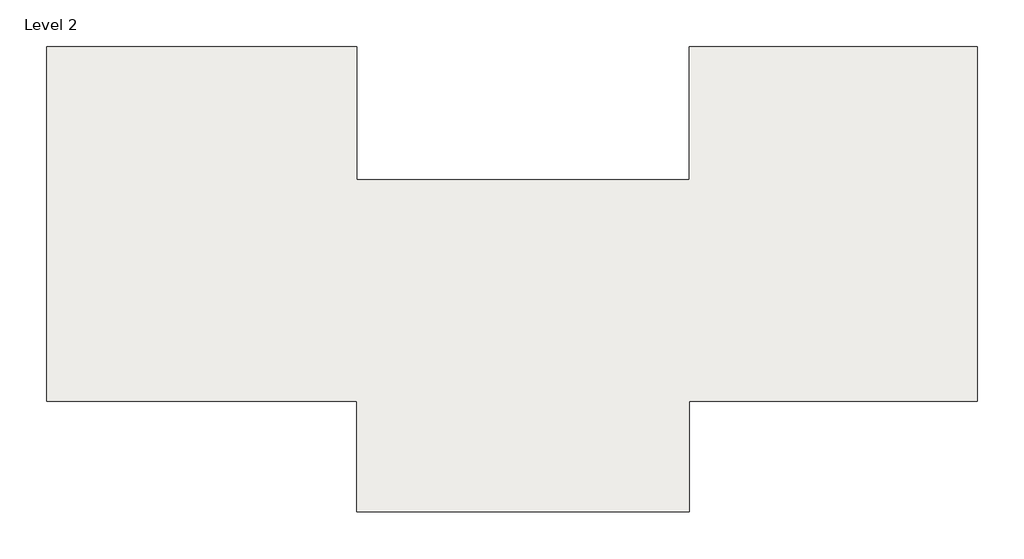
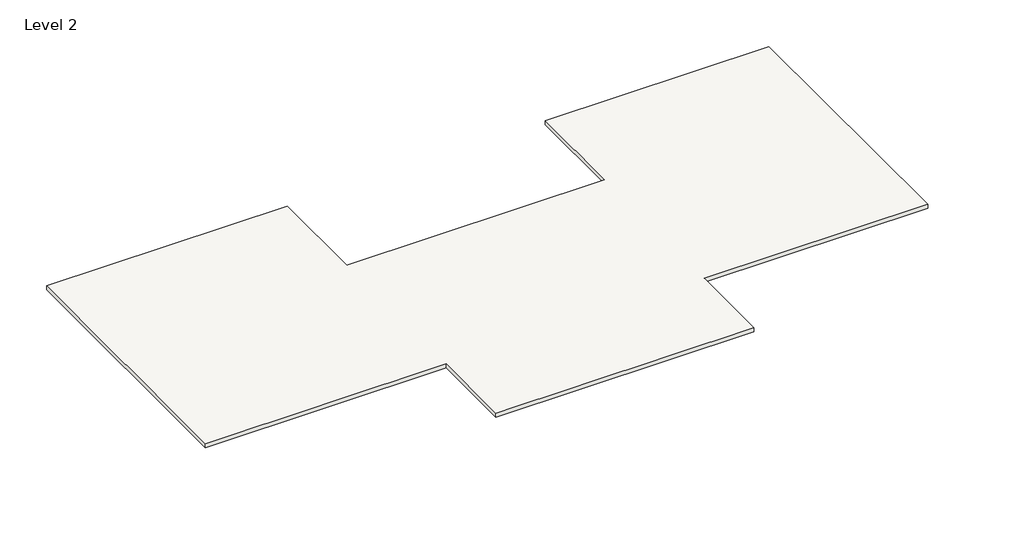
# One storey: 1 slab.
"""IFC4 building model written with IfcOpenShell, lengths in millimetres."""

import ifcopenshell
import ifcopenshell.guid

model = None  # the IFC model being written
_history = None  # IfcOwnerHistory: only IFC2X3 demands one
_inside = {}  # id of a spatial element -> (the spatial element, [elements in it])
_under = {}  # id of a project, library or spatial element -> (it, [spatial elements below it])
_declared = {}  # id of a project -> (the project, [libraries it declares])
_typed = {}  # id of a type object -> (the type object, [elements of that type])
_made_of = {}  # id of a material, layer set ... -> (it, [elements and type objects made of it])


def new_model(schema):
    """Start an empty IFC model of exactly this schema.

    Asked for "IFC4X3", IfcOpenShell would pick the latest addendum, in which some entities
    have other attributes; the version numbers below select the first issue.
    IFC2X3 requires an IfcOwnerHistory on every rooted entity: one is made here for all.
    """
    global model, _history
    if schema == "IFC4X3":
        model = ifcopenshell.file(schema_version=(4, 3, 0, 0))
    else:
        model = ifcopenshell.file(schema=schema)
    _inside.clear()
    _under.clear()
    _declared.clear()
    _typed.clear()
    _made_of.clear()
    _history = None
    if model.schema == "IFC2X3":
        org = make("IfcOrganization", Name="unknown")
        user = make(
            "IfcPersonAndOrganization",
            ThePerson=make("IfcPerson", FamilyName="unknown"),
            TheOrganization=org,
        )
        app = make(
            "IfcApplication",
            ApplicationDeveloper=org,
            Version="unknown",
            ApplicationFullName="unknown",
            ApplicationIdentifier="unknown",
        )
        _history = make(
            "IfcOwnerHistory",
            OwningUser=user,
            OwningApplication=app,
            ChangeAction="ADDED",
            CreationDate=0,
        )
    return model


def make(cls, **values):
    """One entity of the class cls with the attributes given. An attribute that is None is left unset."""
    return model.create_entity(
        cls, **{name: value for name, value in values.items() if value is not None}
    )


def rooted(cls, **values):
    """An entity with a GlobalId (a new one), such as an element, a storey or a relation."""
    return make(cls, GlobalId=ifcopenshell.guid.new(), OwnerHistory=_history, **values)


def si_unit(unit_type, name, prefix=None):
    """IfcSIUnit, for example si_unit("LENGTHUNIT", "METRE", prefix="MILLI")."""
    return make("IfcSIUnit", UnitType=unit_type, Prefix=prefix, Name=name)


def assignment(units):
    """IfcUnitAssignment: the units of a project."""
    return None if units is None else make("IfcUnitAssignment", Units=units)


def point(xyz):
    """IfcCartesianPoint."""
    return None if xyz is None else make("IfcCartesianPoint", Coordinates=xyz)


def direction(xyz):
    """IfcDirection."""
    return None if xyz is None else make("IfcDirection", DirectionRatios=xyz)


def frame(location, z_axis=None, x_axis=None):
    """IfcAxis2Placement3D, a coordinate frame: its origin and axes. An axis left out is left unset."""
    return make(
        "IfcAxis2Placement3D",
        Location=point(location),
        Axis=direction(z_axis),
        RefDirection=direction(x_axis),
    )


def origin():
    """The frame at (0, 0, 0) with its axes left unset."""
    return frame((0.0, 0.0, 0.0))


def place(relative_to, where):
    """IfcLocalPlacement: puts the frame where relative to a parent placement (None: the world)."""
    return make(
        "IfcLocalPlacement", PlacementRelTo=relative_to, RelativePlacement=where
    )


def context(
    kind, dimensions, precision=None, world=None, true_north=None, identifier=None
):
    """IfcGeometricRepresentationContext, for example the 3D "Model" context."""
    return make(
        "IfcGeometricRepresentationContext",
        ContextIdentifier=identifier,
        ContextType=kind,
        CoordinateSpaceDimension=dimensions,
        Precision=precision,
        WorldCoordinateSystem=world,
        TrueNorth=true_north,
    )


def project(units=None, contexts=None):
    """IfcProject with its units and contexts."""
    return rooted(
        "IfcProject",
        Name="project",
        RepresentationContexts=contexts,
        UnitsInContext=assignment(units),
    )


def spatial(cls, under=None, at=None, **own):
    """A site, building, storey or space (cls), placed at a placement, below another one or the project."""
    s = rooted(cls, ObjectPlacement=at, **own)
    if under is not None:
        _under.setdefault(under.id(), (under, []))[1].append(s)
    return s


def polyline(points):
    """IfcPolyline through the points."""
    return make("IfcPolyline", Points=[point(p) for p in points])


def outline(outer, holes=None, kind="AREA"):
    """IfcArbitraryClosedProfileDef: a profile drawn as a closed curve; with holes, ...WithVoids."""
    if holes is None:
        return make("IfcArbitraryClosedProfileDef", ProfileType=kind, OuterCurve=outer)
    return make(
        "IfcArbitraryProfileDefWithVoids",
        ProfileType=kind,
        OuterCurve=outer,
        InnerCurves=holes,
    )


def extrude(swept, where, along, depth):
    """IfcExtrudedAreaSolid: the profile swept, set in the frame where, extruded along a direction by depth."""
    return make(
        "IfcExtrudedAreaSolid",
        SweptArea=swept,
        Position=where,
        ExtrudedDirection=direction(along),
        Depth=depth,
    )


def shape(context_of_items, identifier, shape_type, items):
    """IfcShapeRepresentation: the items that make up one representation, for example the "Body"."""
    return make(
        "IfcShapeRepresentation",
        ContextOfItems=context_of_items,
        RepresentationIdentifier=identifier,
        RepresentationType=shape_type,
        Items=items,
    )


def made_of(thing, what):
    """Note that an element or type object is made of a material, layer set ...; save() writes the relation."""
    if what is not None:
        _made_of.setdefault(what.id(), (what, []))[1].append(thing)
    return thing


def element(
    cls,
    number,
    at=None,
    inside=None,
    cuts=None,
    type_object=None,
    material=None,
    context=None,
    identifier="Body",
    shape_type=None,
    held_by="IfcProductDefinitionShape",
    body=None,
    shapes=None,
    **own,
):
    """One element of the class cls, such as IfcWall. Its Tag is "e" and its number.

    at: its placement. inside: the storey or other place that contains it. cuts: it is an
    opening in that element (IfcRelVoidsElement). A single representation is given by context,
    identifier, shape_type and body (its items); several are given by shapes. held_by: the class
    of the entity that holds the representations. save() writes the other relations.
    """
    e = rooted(cls, Tag="e%d" % number, ObjectPlacement=at, **own)
    if body is not None:
        shapes = [shape(context, identifier, shape_type, body)]
    if shapes is not None:
        e.Representation = make(held_by, Representations=shapes)
    if inside is not None:
        _inside.setdefault(inside.id(), (inside, []))[1].append(e)
    if cuts is not None:
        rooted(
            "IfcRelVoidsElement", RelatingBuildingElement=cuts, RelatedOpeningElement=e
        )
    if type_object is not None:
        _typed.setdefault(type_object.id(), (type_object, []))[1].append(e)
    return made_of(e, material)


def aggregate(whole, parts):
    """IfcRelAggregates: a whole, such as a stair, and the parts it consists of."""
    return rooted("IfcRelAggregates", RelatingObject=whole, RelatedObjects=parts)


def save(model, path):
    """Write the relations noted so far, then the file.

    IfcRelAggregates (storeys below a building ...), IfcRelContainedInSpatialStructure (elements
    in a storey), IfcRelDefinesByType, IfcRelAssociatesMaterial and IfcRelDeclares: one each for
    every whole, place, type object, material and project.
    """
    for whole, parts in _under.values():
        aggregate(whole, parts)
    for where, things in _inside.values():
        rooted(
            "IfcRelContainedInSpatialStructure",
            RelatedElements=things,
            RelatingStructure=where,
        )
    for kind, things in _typed.values():
        rooted("IfcRelDefinesByType", RelatedObjects=things, RelatingType=kind)
    for what, things in _made_of.values():
        rooted("IfcRelAssociatesMaterial", RelatedObjects=things, RelatingMaterial=what)
    for by, libraries in _declared.values():
        rooted("IfcRelDeclares", RelatingContext=by, RelatedDefinitions=libraries)
    model.write(path)


model = new_model("IFC4")

# Units and contexts
model_context = context("Model", 3, world=origin())
ifc_project = project(units=[si_unit("LENGTHUNIT", "METRE", prefix="MILLI")], contexts=[model_context])

# Site, building, storey
site = spatial("IfcSite", under=ifc_project)
building = spatial("IfcBuilding", under=site)
storey = spatial("IfcBuildingStorey", under=building, Name="Level 2", Elevation=3048.0)

# Slab
placement = place(None, origin())
element("IfcSlab", 1, ObjectType="Generic - 12\"", at=placement, inside=storey, context=model_context, shape_type="SweptSolid", body=[
    extrude(outline(polyline([(2876.9647544, 10145.5659381), (2876.9647544, 2830.3659381), (21164.9647544, 2830.3659381), (21164.9647544, 10145.5659381), (37014.5647544, 10145.5659381), (37014.5647544, -9361.6340619), (21164.9647544, -9361.6340619), (21164.9647544, -15457.6340619), (2876.9647544, -15457.6340619), (2876.9647544, -9361.6340619), (-14191.8352456, -9361.6340619), (-14191.8352456, 10145.5659381), (2876.9647544, 10145.5659381)])), frame((0.0, 0.0, 2743.2), z_axis=(0.0, 0.0, 1.0), x_axis=(1.0, 0.0, 0.0)), (0.0, 0.0, 1.0), 304.8),
])

save(model, "model.ifc")
